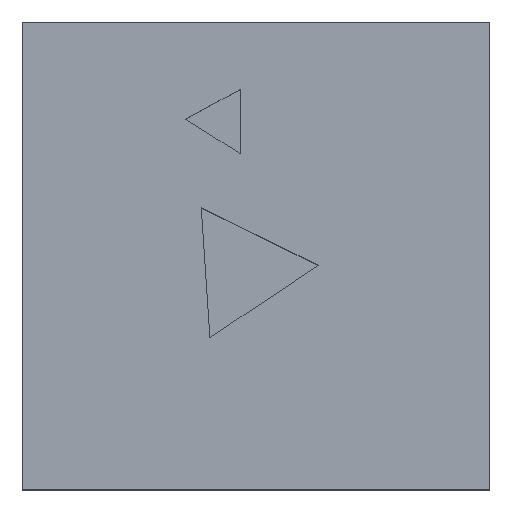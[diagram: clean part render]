
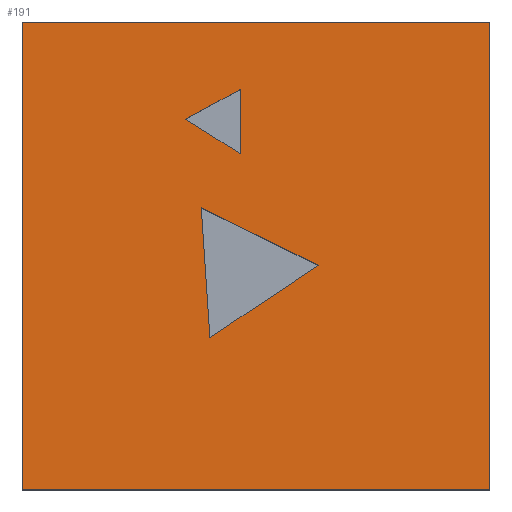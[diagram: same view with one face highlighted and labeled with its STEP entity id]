
A CAD part, top view. The second image highlights one B-rep face of the part: STEP entity #191.
In plain terms, the highlighted planar face has unit normal (0, 0, 1).
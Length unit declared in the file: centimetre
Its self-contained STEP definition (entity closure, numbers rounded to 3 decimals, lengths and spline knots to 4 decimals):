
#30 = VECTOR ( 'NONE', #582, 100. ) ;
#35 = DIRECTION ( 'NONE',  ( -0.877, -0.481, 0. ) ) ;
#36 = LINE ( 'NONE', #665, #30 ) ;
#37 = DIRECTION ( 'NONE',  ( 0., -1., 0. ) ) ;
#57 = FACE_OUTER_BOUND ( 'NONE', #106, .T. ) ;
#67 = ORIENTED_EDGE ( 'NONE', *, *, #471, .T. ) ;
#86 = EDGE_CURVE ( 'NONE', #954, #575, #799, .T. ) ;
#93 = DIRECTION ( 'NONE',  ( -0.898, 0.441, 0. ) ) ;
#106 = EDGE_LOOP ( 'NONE', ( #67, #122, #186, #400 ) ) ;
#109 = EDGE_CURVE ( 'NONE', #153, #182, #735, .T. ) ;
#119 = CARTESIAN_POINT ( 'NONE',  ( 1000., 1000., 1000. ) ) ;
#121 = VERTEX_POINT ( 'NONE', #951 ) ;
#122 = ORIENTED_EDGE ( 'NONE', *, *, #86, .T. ) ;
#140 = CARTESIAN_POINT ( 'NONE',  ( 0., 1000., 1000. ) ) ;
#153 = VERTEX_POINT ( 'NONE', #605 ) ;
#154 = CARTESIAN_POINT ( 'NONE',  ( 1000., 0., 1000. ) ) ;
#158 = LINE ( 'NONE', #377, #840 ) ;
#175 = EDGE_LOOP ( 'NONE', ( #856, #713, #257 ) ) ;
#182 = VERTEX_POINT ( 'NONE', #206 ) ;
#183 = EDGE_CURVE ( 'NONE', #121, #675, #212, .T. ) ;
#186 = ORIENTED_EDGE ( 'NONE', *, *, #447, .T. ) ;
#187 = DIRECTION ( 'NONE',  ( 1., 0., 0. ) ) ;
#189 = EDGE_LOOP ( 'NONE', ( #789, #241, #384 ) ) ;
#191 = ADVANCED_FACE ( 'NONE', ( #761, #374, #57 ), #748, .T. ) ;
#206 = CARTESIAN_POINT ( 'NONE',  ( 349.6696, 791.9444, 1000. ) ) ;
#209 = VECTOR ( 'NONE', #35, 100. ) ;
#212 = LINE ( 'NONE', #524, #568 ) ;
#232 = EDGE_CURVE ( 'NONE', #182, #356, #354, .T. ) ;
#241 = ORIENTED_EDGE ( 'NONE', *, *, #609, .F. ) ;
#251 = CARTESIAN_POINT ( 'NONE',  ( 0., 0., 1000. ) ) ;
#257 = ORIENTED_EDGE ( 'NONE', *, *, #232, .F. ) ;
#320 = CARTESIAN_POINT ( 'NONE',  ( 466.0167, 717.9911, 1000. ) ) ;
#354 = LINE ( 'NONE', #686, #714 ) ;
#356 = VERTEX_POINT ( 'NONE', #557 ) ;
#357 = LINE ( 'NONE', #119, #501 ) ;
#374 = FACE_BOUND ( 'NONE', #175, .T. ) ;
#375 = VERTEX_POINT ( 'NONE', #847 ) ;
#377 = CARTESIAN_POINT ( 'NONE',  ( 382.7433, 602.4103, 1000. ) ) ;
#384 = ORIENTED_EDGE ( 'NONE', *, *, #786, .F. ) ;
#398 = LINE ( 'NONE', #320, #795 ) ;
#400 = ORIENTED_EDGE ( 'NONE', *, *, #874, .T. ) ;
#446 = VERTEX_POINT ( 'NONE', #523 ) ;
#447 = EDGE_CURVE ( 'NONE', #575, #446, #357, .T. ) ;
#471 = EDGE_CURVE ( 'NONE', #375, #954, #737, .T. ) ;
#479 = LINE ( 'NONE', #953, #555 ) ;
#501 = VECTOR ( 'NONE', #747, 100. ) ;
#519 = DIRECTION ( 'NONE',  ( 0.831, 0.557, 0. ) ) ;
#523 = CARTESIAN_POINT ( 'NONE',  ( 1000., 1000., 1000. ) ) ;
#524 = CARTESIAN_POINT ( 'NONE',  ( 401.3818, 324.114, 1000. ) ) ;
#555 = VECTOR ( 'NONE', #93, 100. ) ;
#557 = CARTESIAN_POINT ( 'NONE',  ( 466.0167, 717.9911, 1000. ) ) ;
#568 = VECTOR ( 'NONE', #519, 100. ) ;
#575 = VERTEX_POINT ( 'NONE', #154 ) ;
#582 = DIRECTION ( 'NONE',  ( -1., 0., 0. ) ) ;
#605 = CARTESIAN_POINT ( 'NONE',  ( 466.0167, 855.7273, 1000. ) ) ;
#609 = EDGE_CURVE ( 'NONE', #779, #121, #158, .T. ) ;
#665 = CARTESIAN_POINT ( 'NONE',  ( 0., 1000., 1000. ) ) ;
#675 = VERTEX_POINT ( 'NONE', #833 ) ;
#686 = CARTESIAN_POINT ( 'NONE',  ( 349.6696, 791.9444, 1000. ) ) ;
#690 = DIRECTION ( 'NONE',  ( 0.844, -0.536, 0. ) ) ;
#713 = ORIENTED_EDGE ( 'NONE', *, *, #792, .F. ) ;
#714 = VECTOR ( 'NONE', #690, 100. ) ;
#717 = DIRECTION ( 'NONE',  ( 0., 1., 0. ) ) ;
#724 = CARTESIAN_POINT ( 'NONE',  ( 466.0167, 855.7273, 1000. ) ) ;
#733 = CARTESIAN_POINT ( 'NONE',  ( 0., 0., 1000. ) ) ;
#735 = LINE ( 'NONE', #724, #209 ) ;
#737 = LINE ( 'NONE', #140, #950 ) ;
#747 = DIRECTION ( 'NONE',  ( 0., 1., 0. ) ) ;
#748 = PLANE ( 'NONE',  #884 ) ;
#752 = DIRECTION ( 'NONE',  ( 0., 0., 1. ) ) ;
#759 = VECTOR ( 'NONE', #187, 100. ) ;
#761 = FACE_BOUND ( 'NONE', #189, .T. ) ;
#768 = DIRECTION ( 'NONE',  ( 1., 0., 0. ) ) ;
#771 = DIRECTION ( 'NONE',  ( 0.067, -0.998, 0. ) ) ;
#779 = VERTEX_POINT ( 'NONE', #801 ) ;
#786 = EDGE_CURVE ( 'NONE', #675, #779, #479, .T. ) ;
#789 = ORIENTED_EDGE ( 'NONE', *, *, #183, .F. ) ;
#792 = EDGE_CURVE ( 'NONE', #356, #153, #398, .T. ) ;
#795 = VECTOR ( 'NONE', #717, 100. ) ;
#799 = LINE ( 'NONE', #251, #759 ) ;
#801 = CARTESIAN_POINT ( 'NONE',  ( 382.7433, 602.4103, 1000. ) ) ;
#829 = CARTESIAN_POINT ( 'NONE',  ( 0., 0., 1000. ) ) ;
#833 = CARTESIAN_POINT ( 'NONE',  ( 633.0742, 479.4036, 1000. ) ) ;
#840 = VECTOR ( 'NONE', #771, 100. ) ;
#847 = CARTESIAN_POINT ( 'NONE',  ( 0., 1000., 1000. ) ) ;
#856 = ORIENTED_EDGE ( 'NONE', *, *, #109, .F. ) ;
#874 = EDGE_CURVE ( 'NONE', #446, #375, #36, .T. ) ;
#884 = AXIS2_PLACEMENT_3D ( 'NONE', #829, #752, #768 ) ;
#950 = VECTOR ( 'NONE', #37, 100. ) ;
#951 = CARTESIAN_POINT ( 'NONE',  ( 401.3818, 324.114, 1000. ) ) ;
#953 = CARTESIAN_POINT ( 'NONE',  ( 633.0742, 479.4036, 1000. ) ) ;
#954 = VERTEX_POINT ( 'NONE', #733 ) ;
